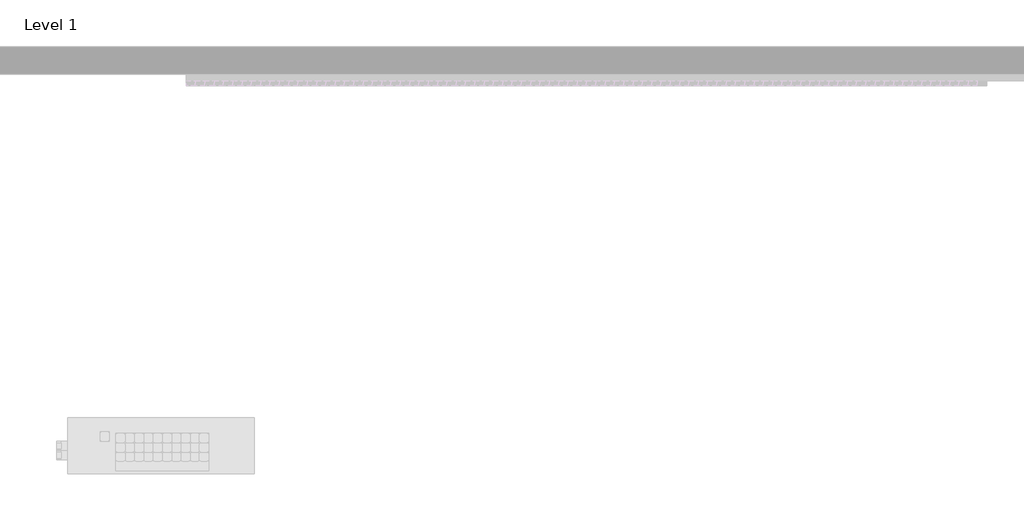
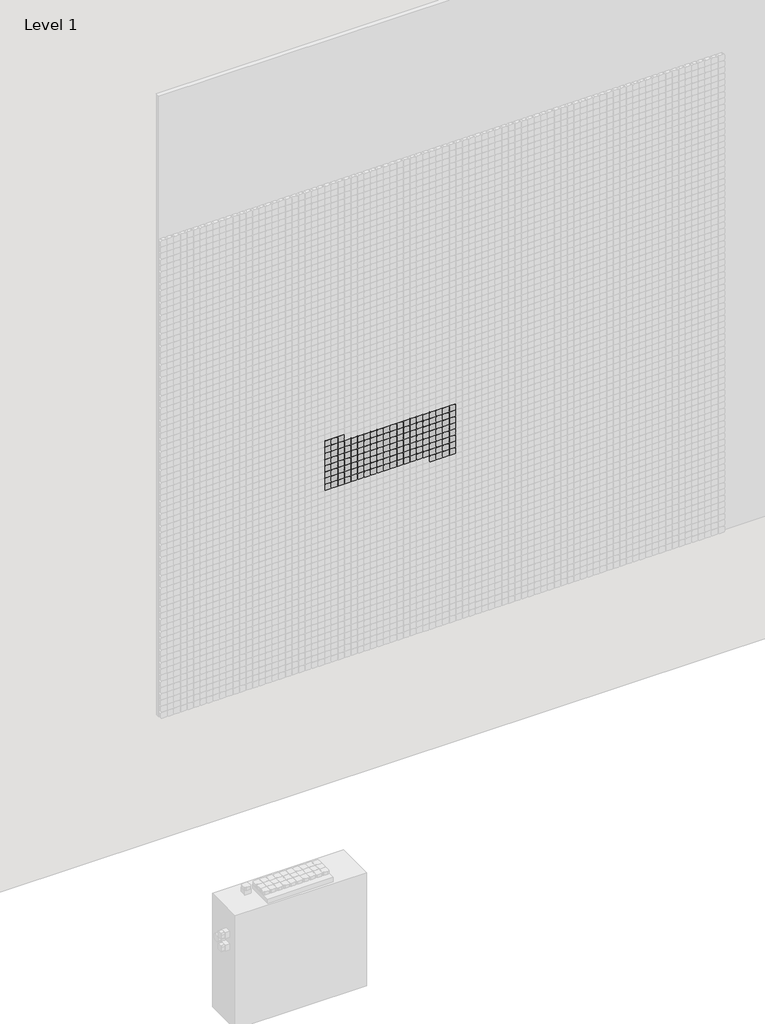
# One storey, part 30 of 71: 147 proxies.
"""IFC4 building model written with IfcOpenShell, lengths in millimetres."""

from ifc_helpers import new_model, si_unit, origin, place, context, project, spatial, transform, mapped, element, save
from components import generic_models_afde289c

model = new_model("IFC4")

# Units and contexts
model_context = context("Model", 3, world=origin())
ifc_project = project(units=[si_unit("LENGTHUNIT", "METRE", prefix="MILLI")], contexts=[model_context])

# Site, building, storey
site = spatial("IfcSite", under=ifc_project)
building = spatial("IfcBuilding", under=site)
storey = spatial("IfcBuildingStorey", under=building, Name="Level 1", Elevation=0.0)

# Proxies
placement = place(None, origin())
generic_models_shape = generic_models_afde289c(model_context)
element("IfcBuildingElementProxy", 1, Name="Pixel_M : Pixel_M", ObjectType="Pixel_M : Pixel_M", at=placement, inside=storey, context=model_context, shape_type="MappedRepresentation", body=[
    mapped(generic_models_shape, transform((6112.4280941, -75.0, 2766.3566215), x_axis=(1.0, 0.0, 0.0), y_axis=(0.0, 0.0, 1.0), z_axis=(0.0, -1.0, 0.0))),
])
element("IfcBuildingElementProxy", 2, Name="Pixel_M : Pixel_M", ObjectType="Pixel_M : Pixel_M", at=placement, inside=storey, context=model_context, shape_type="MappedRepresentation", body=[
    mapped(generic_models_shape, transform((6062.4280941, -75.0, 2766.3566215), x_axis=(1.0, 0.0, 0.0), y_axis=(0.0, 0.0, 1.0), z_axis=(0.0, -1.0, 0.0))),
])
element("IfcBuildingElementProxy", 3, Name="Pixel_M : Pixel_M", ObjectType="Pixel_M : Pixel_M", at=placement, inside=storey, context=model_context, shape_type="MappedRepresentation", body=[
    mapped(generic_models_shape, transform((6012.4280941, -75.0, 2766.3566215), x_axis=(1.0, 0.0, 0.0), y_axis=(0.0, 0.0, 1.0), z_axis=(0.0, -1.0, 0.0))),
])
element("IfcBuildingElementProxy", 4, Name="Pixel_M : Pixel_M", ObjectType="Pixel_M : Pixel_M", at=placement, inside=storey, context=model_context, shape_type="MappedRepresentation", body=[
    mapped(generic_models_shape, transform((6962.4280941, -75.0, 2716.3566215), x_axis=(1.0, 0.0, 0.0), y_axis=(0.0, 0.0, 1.0), z_axis=(0.0, -1.0, 0.0))),
])
element("IfcBuildingElementProxy", 5, Name="Pixel_M : Pixel_M", ObjectType="Pixel_M : Pixel_M", at=placement, inside=storey, context=model_context, shape_type="MappedRepresentation", body=[
    mapped(generic_models_shape, transform((6912.4280941, -75.0, 2716.3566215), x_axis=(1.0, 0.0, 0.0), y_axis=(0.0, 0.0, 1.0), z_axis=(0.0, -1.0, 0.0))),
])
element("IfcBuildingElementProxy", 6, Name="Pixel_M : Pixel_M", ObjectType="Pixel_M : Pixel_M", at=placement, inside=storey, context=model_context, shape_type="MappedRepresentation", body=[
    mapped(generic_models_shape, transform((6862.4280941, -75.0, 2716.3566215), x_axis=(1.0, 0.0, 0.0), y_axis=(0.0, 0.0, 1.0), z_axis=(0.0, -1.0, 0.0))),
])
element("IfcBuildingElementProxy", 7, Name="Pixel_M : Pixel_M", ObjectType="Pixel_M : Pixel_M", at=placement, inside=storey, context=model_context, shape_type="MappedRepresentation", body=[
    mapped(generic_models_shape, transform((6812.4280941, -75.0, 2716.3566215), x_axis=(1.0, 0.0, 0.0), y_axis=(0.0, 0.0, 1.0), z_axis=(0.0, -1.0, 0.0))),
])
element("IfcBuildingElementProxy", 8, Name="Pixel_M : Pixel_M", ObjectType="Pixel_M : Pixel_M", at=placement, inside=storey, context=model_context, shape_type="MappedRepresentation", body=[
    mapped(generic_models_shape, transform((6762.4280941, -75.0, 2716.3566215), x_axis=(1.0, 0.0, 0.0), y_axis=(0.0, 0.0, 1.0), z_axis=(0.0, -1.0, 0.0))),
])
element("IfcBuildingElementProxy", 9, Name="Pixel_M : Pixel_M", ObjectType="Pixel_M : Pixel_M", at=placement, inside=storey, context=model_context, shape_type="MappedRepresentation", body=[
    mapped(generic_models_shape, transform((6712.4280941, -75.0, 2716.3566215), x_axis=(1.0, 0.0, 0.0), y_axis=(0.0, 0.0, 1.0), z_axis=(0.0, -1.0, 0.0))),
])
element("IfcBuildingElementProxy", 10, Name="Pixel_M : Pixel_M", ObjectType="Pixel_M : Pixel_M", at=placement, inside=storey, context=model_context, shape_type="MappedRepresentation", body=[
    mapped(generic_models_shape, transform((6662.4280941, -75.0, 2716.3566215), x_axis=(1.0, 0.0, 0.0), y_axis=(0.0, 0.0, 1.0), z_axis=(0.0, -1.0, 0.0))),
])
element("IfcBuildingElementProxy", 11, Name="Pixel_M : Pixel_M", ObjectType="Pixel_M : Pixel_M", at=placement, inside=storey, context=model_context, shape_type="MappedRepresentation", body=[
    mapped(generic_models_shape, transform((6612.4280941, -75.0, 2716.3566215), x_axis=(1.0, 0.0, 0.0), y_axis=(0.0, 0.0, 1.0), z_axis=(0.0, -1.0, 0.0))),
])
element("IfcBuildingElementProxy", 12, Name="Pixel_M : Pixel_M", ObjectType="Pixel_M : Pixel_M", at=placement, inside=storey, context=model_context, shape_type="MappedRepresentation", body=[
    mapped(generic_models_shape, transform((6562.4280941, -75.0, 2716.3566215), x_axis=(1.0, 0.0, 0.0), y_axis=(0.0, 0.0, 1.0), z_axis=(0.0, -1.0, 0.0))),
])
element("IfcBuildingElementProxy", 13, Name="Pixel_M : Pixel_M", ObjectType="Pixel_M : Pixel_M", at=placement, inside=storey, context=model_context, shape_type="MappedRepresentation", body=[
    mapped(generic_models_shape, transform((6512.4280941, -75.0, 2716.3566215), x_axis=(1.0, 0.0, 0.0), y_axis=(0.0, 0.0, 1.0), z_axis=(0.0, -1.0, 0.0))),
])
element("IfcBuildingElementProxy", 14, Name="Pixel_M : Pixel_M", ObjectType="Pixel_M : Pixel_M", at=placement, inside=storey, context=model_context, shape_type="MappedRepresentation", body=[
    mapped(generic_models_shape, transform((6462.4280941, -75.0, 2716.3566215), x_axis=(1.0, 0.0, 0.0), y_axis=(0.0, 0.0, 1.0), z_axis=(0.0, -1.0, 0.0))),
])
element("IfcBuildingElementProxy", 15, Name="Pixel_M : Pixel_M", ObjectType="Pixel_M : Pixel_M", at=placement, inside=storey, context=model_context, shape_type="MappedRepresentation", body=[
    mapped(generic_models_shape, transform((6412.4280941, -75.0, 2716.3566215), x_axis=(1.0, 0.0, 0.0), y_axis=(0.0, 0.0, 1.0), z_axis=(0.0, -1.0, 0.0))),
])
element("IfcBuildingElementProxy", 16, Name="Pixel_M : Pixel_M", ObjectType="Pixel_M : Pixel_M", at=placement, inside=storey, context=model_context, shape_type="MappedRepresentation", body=[
    mapped(generic_models_shape, transform((6362.4280941, -75.0, 2716.3566215), x_axis=(1.0, 0.0, 0.0), y_axis=(0.0, 0.0, 1.0), z_axis=(0.0, -1.0, 0.0))),
])
element("IfcBuildingElementProxy", 17, Name="Pixel_M : Pixel_M", ObjectType="Pixel_M : Pixel_M", at=placement, inside=storey, context=model_context, shape_type="MappedRepresentation", body=[
    mapped(generic_models_shape, transform((6312.4280941, -75.0, 2716.3566215), x_axis=(1.0, 0.0, 0.0), y_axis=(0.0, 0.0, 1.0), z_axis=(0.0, -1.0, 0.0))),
])
element("IfcBuildingElementProxy", 18, Name="Pixel_M : Pixel_M", ObjectType="Pixel_M : Pixel_M", at=placement, inside=storey, context=model_context, shape_type="MappedRepresentation", body=[
    mapped(generic_models_shape, transform((6262.4280941, -75.0, 2716.3566215), x_axis=(1.0, 0.0, 0.0), y_axis=(0.0, 0.0, 1.0), z_axis=(0.0, -1.0, 0.0))),
])
element("IfcBuildingElementProxy", 19, Name="Pixel_M : Pixel_M", ObjectType="Pixel_M : Pixel_M", at=placement, inside=storey, context=model_context, shape_type="MappedRepresentation", body=[
    mapped(generic_models_shape, transform((6212.4280941, -75.0, 2716.3566215), x_axis=(1.0, 0.0, 0.0), y_axis=(0.0, 0.0, 1.0), z_axis=(0.0, -1.0, 0.0))),
])
element("IfcBuildingElementProxy", 20, Name="Pixel_M : Pixel_M", ObjectType="Pixel_M : Pixel_M", at=placement, inside=storey, context=model_context, shape_type="MappedRepresentation", body=[
    mapped(generic_models_shape, transform((6162.4280941, -75.0, 2716.3566215), x_axis=(1.0, 0.0, 0.0), y_axis=(0.0, 0.0, 1.0), z_axis=(0.0, -1.0, 0.0))),
])
element("IfcBuildingElementProxy", 21, Name="Pixel_M : Pixel_M", ObjectType="Pixel_M : Pixel_M", at=placement, inside=storey, context=model_context, shape_type="MappedRepresentation", body=[
    mapped(generic_models_shape, transform((6112.4280941, -75.0, 2716.3566215), x_axis=(1.0, 0.0, 0.0), y_axis=(0.0, 0.0, 1.0), z_axis=(0.0, -1.0, 0.0))),
])
element("IfcBuildingElementProxy", 22, Name="Pixel_M : Pixel_M", ObjectType="Pixel_M : Pixel_M", at=placement, inside=storey, context=model_context, shape_type="MappedRepresentation", body=[
    mapped(generic_models_shape, transform((6062.4280941, -75.0, 2716.3566215), x_axis=(1.0, 0.0, 0.0), y_axis=(0.0, 0.0, 1.0), z_axis=(0.0, -1.0, 0.0))),
])
element("IfcBuildingElementProxy", 23, Name="Pixel_M : Pixel_M", ObjectType="Pixel_M : Pixel_M", at=placement, inside=storey, context=model_context, shape_type="MappedRepresentation", body=[
    mapped(generic_models_shape, transform((6012.4280941, -75.0, 2716.3566215), x_axis=(1.0, 0.0, 0.0), y_axis=(0.0, 0.0, 1.0), z_axis=(0.0, -1.0, 0.0))),
])
element("IfcBuildingElementProxy", 24, Name="Pixel_M : Pixel_M", ObjectType="Pixel_M : Pixel_M", at=placement, inside=storey, context=model_context, shape_type="MappedRepresentation", body=[
    mapped(generic_models_shape, transform((6962.4280941, -75.0, 2666.3566215), x_axis=(1.0, 0.0, 0.0), y_axis=(0.0, 0.0, 1.0), z_axis=(0.0, -1.0, 0.0))),
])
element("IfcBuildingElementProxy", 25, Name="Pixel_M : Pixel_M", ObjectType="Pixel_M : Pixel_M", at=placement, inside=storey, context=model_context, shape_type="MappedRepresentation", body=[
    mapped(generic_models_shape, transform((6912.4280941, -75.0, 2666.3566215), x_axis=(1.0, 0.0, 0.0), y_axis=(0.0, 0.0, 1.0), z_axis=(0.0, -1.0, 0.0))),
])
element("IfcBuildingElementProxy", 26, Name="Pixel_M : Pixel_M", ObjectType="Pixel_M : Pixel_M", at=placement, inside=storey, context=model_context, shape_type="MappedRepresentation", body=[
    mapped(generic_models_shape, transform((6862.4280941, -75.0, 2666.3566215), x_axis=(1.0, 0.0, 0.0), y_axis=(0.0, 0.0, 1.0), z_axis=(0.0, -1.0, 0.0))),
])
element("IfcBuildingElementProxy", 27, Name="Pixel_M : Pixel_M", ObjectType="Pixel_M : Pixel_M", at=placement, inside=storey, context=model_context, shape_type="MappedRepresentation", body=[
    mapped(generic_models_shape, transform((6812.4280941, -75.0, 2666.3566215), x_axis=(1.0, 0.0, 0.0), y_axis=(0.0, 0.0, 1.0), z_axis=(0.0, -1.0, 0.0))),
])
element("IfcBuildingElementProxy", 28, Name="Pixel_M : Pixel_M", ObjectType="Pixel_M : Pixel_M", at=placement, inside=storey, context=model_context, shape_type="MappedRepresentation", body=[
    mapped(generic_models_shape, transform((6762.4280941, -75.0, 2666.3566215), x_axis=(1.0, 0.0, 0.0), y_axis=(0.0, 0.0, 1.0), z_axis=(0.0, -1.0, 0.0))),
])
element("IfcBuildingElementProxy", 29, Name="Pixel_M : Pixel_M", ObjectType="Pixel_M : Pixel_M", at=placement, inside=storey, context=model_context, shape_type="MappedRepresentation", body=[
    mapped(generic_models_shape, transform((6712.4280941, -75.0, 2666.3566215), x_axis=(1.0, 0.0, 0.0), y_axis=(0.0, 0.0, 1.0), z_axis=(0.0, -1.0, 0.0))),
])
element("IfcBuildingElementProxy", 30, Name="Pixel_M : Pixel_M", ObjectType="Pixel_M : Pixel_M", at=placement, inside=storey, context=model_context, shape_type="MappedRepresentation", body=[
    mapped(generic_models_shape, transform((6662.4280941, -75.0, 2666.3566215), x_axis=(1.0, 0.0, 0.0), y_axis=(0.0, 0.0, 1.0), z_axis=(0.0, -1.0, 0.0))),
])
element("IfcBuildingElementProxy", 31, Name="Pixel_M : Pixel_M", ObjectType="Pixel_M : Pixel_M", at=placement, inside=storey, context=model_context, shape_type="MappedRepresentation", body=[
    mapped(generic_models_shape, transform((6612.4280941, -75.0, 2666.3566215), x_axis=(1.0, 0.0, 0.0), y_axis=(0.0, 0.0, 1.0), z_axis=(0.0, -1.0, 0.0))),
])
element("IfcBuildingElementProxy", 32, Name="Pixel_M : Pixel_M", ObjectType="Pixel_M : Pixel_M", at=placement, inside=storey, context=model_context, shape_type="MappedRepresentation", body=[
    mapped(generic_models_shape, transform((6562.4280941, -75.0, 2666.3566215), x_axis=(1.0, 0.0, 0.0), y_axis=(0.0, 0.0, 1.0), z_axis=(0.0, -1.0, 0.0))),
])
element("IfcBuildingElementProxy", 33, Name="Pixel_M : Pixel_M", ObjectType="Pixel_M : Pixel_M", at=placement, inside=storey, context=model_context, shape_type="MappedRepresentation", body=[
    mapped(generic_models_shape, transform((6512.4280941, -75.0, 2666.3566215), x_axis=(1.0, 0.0, 0.0), y_axis=(0.0, 0.0, 1.0), z_axis=(0.0, -1.0, 0.0))),
])
element("IfcBuildingElementProxy", 34, Name="Pixel_M : Pixel_M", ObjectType="Pixel_M : Pixel_M", at=placement, inside=storey, context=model_context, shape_type="MappedRepresentation", body=[
    mapped(generic_models_shape, transform((6462.4280941, -75.0, 2666.3566215), x_axis=(1.0, 0.0, 0.0), y_axis=(0.0, 0.0, 1.0), z_axis=(0.0, -1.0, 0.0))),
])
element("IfcBuildingElementProxy", 35, Name="Pixel_M : Pixel_M", ObjectType="Pixel_M : Pixel_M", at=placement, inside=storey, context=model_context, shape_type="MappedRepresentation", body=[
    mapped(generic_models_shape, transform((6412.4280941, -75.0, 2666.3566215), x_axis=(1.0, 0.0, 0.0), y_axis=(0.0, 0.0, 1.0), z_axis=(0.0, -1.0, 0.0))),
])
element("IfcBuildingElementProxy", 36, Name="Pixel_M : Pixel_M", ObjectType="Pixel_M : Pixel_M", at=placement, inside=storey, context=model_context, shape_type="MappedRepresentation", body=[
    mapped(generic_models_shape, transform((6362.4280941, -75.0, 2666.3566215), x_axis=(1.0, 0.0, 0.0), y_axis=(0.0, 0.0, 1.0), z_axis=(0.0, -1.0, 0.0))),
])
element("IfcBuildingElementProxy", 37, Name="Pixel_M : Pixel_M", ObjectType="Pixel_M : Pixel_M", at=placement, inside=storey, context=model_context, shape_type="MappedRepresentation", body=[
    mapped(generic_models_shape, transform((6312.4280941, -75.0, 2666.3566215), x_axis=(1.0, 0.0, 0.0), y_axis=(0.0, 0.0, 1.0), z_axis=(0.0, -1.0, 0.0))),
])
element("IfcBuildingElementProxy", 38, Name="Pixel_M : Pixel_M", ObjectType="Pixel_M : Pixel_M", at=placement, inside=storey, context=model_context, shape_type="MappedRepresentation", body=[
    mapped(generic_models_shape, transform((6262.4280941, -75.0, 2666.3566215), x_axis=(1.0, 0.0, 0.0), y_axis=(0.0, 0.0, 1.0), z_axis=(0.0, -1.0, 0.0))),
])
element("IfcBuildingElementProxy", 39, Name="Pixel_M : Pixel_M", ObjectType="Pixel_M : Pixel_M", at=placement, inside=storey, context=model_context, shape_type="MappedRepresentation", body=[
    mapped(generic_models_shape, transform((6212.4280941, -75.0, 2666.3566215), x_axis=(1.0, 0.0, 0.0), y_axis=(0.0, 0.0, 1.0), z_axis=(0.0, -1.0, 0.0))),
])
element("IfcBuildingElementProxy", 40, Name="Pixel_M : Pixel_M", ObjectType="Pixel_M : Pixel_M", at=placement, inside=storey, context=model_context, shape_type="MappedRepresentation", body=[
    mapped(generic_models_shape, transform((6162.4280941, -75.0, 2666.3566215), x_axis=(1.0, 0.0, 0.0), y_axis=(0.0, 0.0, 1.0), z_axis=(0.0, -1.0, 0.0))),
])
element("IfcBuildingElementProxy", 41, Name="Pixel_M : Pixel_M", ObjectType="Pixel_M : Pixel_M", at=placement, inside=storey, context=model_context, shape_type="MappedRepresentation", body=[
    mapped(generic_models_shape, transform((6112.4280941, -75.0, 2666.3566215), x_axis=(1.0, 0.0, 0.0), y_axis=(0.0, 0.0, 1.0), z_axis=(0.0, -1.0, 0.0))),
])
element("IfcBuildingElementProxy", 42, Name="Pixel_M : Pixel_M", ObjectType="Pixel_M : Pixel_M", at=placement, inside=storey, context=model_context, shape_type="MappedRepresentation", body=[
    mapped(generic_models_shape, transform((6062.4280941, -75.0, 2666.3566215), x_axis=(1.0, 0.0, 0.0), y_axis=(0.0, 0.0, 1.0), z_axis=(0.0, -1.0, 0.0))),
])
element("IfcBuildingElementProxy", 43, Name="Pixel_M : Pixel_M", ObjectType="Pixel_M : Pixel_M", at=placement, inside=storey, context=model_context, shape_type="MappedRepresentation", body=[
    mapped(generic_models_shape, transform((6012.4280941, -75.0, 2666.3566215), x_axis=(1.0, 0.0, 0.0), y_axis=(0.0, 0.0, 1.0), z_axis=(0.0, -1.0, 0.0))),
])
element("IfcBuildingElementProxy", 44, Name="Pixel_M : Pixel_M", ObjectType="Pixel_M : Pixel_M", at=placement, inside=storey, context=model_context, shape_type="MappedRepresentation", body=[
    mapped(generic_models_shape, transform((6962.4280941, -75.0, 2616.3566215), x_axis=(1.0, 0.0, 0.0), y_axis=(0.0, 0.0, 1.0), z_axis=(0.0, -1.0, 0.0))),
])
element("IfcBuildingElementProxy", 45, Name="Pixel_M : Pixel_M", ObjectType="Pixel_M : Pixel_M", at=placement, inside=storey, context=model_context, shape_type="MappedRepresentation", body=[
    mapped(generic_models_shape, transform((6912.4280941, -75.0, 2616.3566215), x_axis=(1.0, 0.0, 0.0), y_axis=(0.0, 0.0, 1.0), z_axis=(0.0, -1.0, 0.0))),
])
element("IfcBuildingElementProxy", 46, Name="Pixel_M : Pixel_M", ObjectType="Pixel_M : Pixel_M", at=placement, inside=storey, context=model_context, shape_type="MappedRepresentation", body=[
    mapped(generic_models_shape, transform((6862.4280941, -75.0, 2616.3566215), x_axis=(1.0, 0.0, 0.0), y_axis=(0.0, 0.0, 1.0), z_axis=(0.0, -1.0, 0.0))),
])
element("IfcBuildingElementProxy", 47, Name="Pixel_M : Pixel_M", ObjectType="Pixel_M : Pixel_M", at=placement, inside=storey, context=model_context, shape_type="MappedRepresentation", body=[
    mapped(generic_models_shape, transform((6812.4280941, -75.0, 2616.3566215), x_axis=(1.0, 0.0, 0.0), y_axis=(0.0, 0.0, 1.0), z_axis=(0.0, -1.0, 0.0))),
])
element("IfcBuildingElementProxy", 48, Name="Pixel_M : Pixel_M", ObjectType="Pixel_M : Pixel_M", at=placement, inside=storey, context=model_context, shape_type="MappedRepresentation", body=[
    mapped(generic_models_shape, transform((6762.4280941, -75.0, 2616.3566215), x_axis=(1.0, 0.0, 0.0), y_axis=(0.0, 0.0, 1.0), z_axis=(0.0, -1.0, 0.0))),
])
element("IfcBuildingElementProxy", 49, Name="Pixel_M : Pixel_M", ObjectType="Pixel_M : Pixel_M", at=placement, inside=storey, context=model_context, shape_type="MappedRepresentation", body=[
    mapped(generic_models_shape, transform((6712.4280941, -75.0, 2616.3566215), x_axis=(1.0, 0.0, 0.0), y_axis=(0.0, 0.0, 1.0), z_axis=(0.0, -1.0, 0.0))),
])
element("IfcBuildingElementProxy", 50, Name="Pixel_M : Pixel_M", ObjectType="Pixel_M : Pixel_M", at=placement, inside=storey, context=model_context, shape_type="MappedRepresentation", body=[
    mapped(generic_models_shape, transform((6662.4280941, -75.0, 2616.3566215), x_axis=(1.0, 0.0, 0.0), y_axis=(0.0, 0.0, 1.0), z_axis=(0.0, -1.0, 0.0))),
])
element("IfcBuildingElementProxy", 51, Name="Pixel_M : Pixel_M", ObjectType="Pixel_M : Pixel_M", at=placement, inside=storey, context=model_context, shape_type="MappedRepresentation", body=[
    mapped(generic_models_shape, transform((6612.4280941, -75.0, 2616.3566215), x_axis=(1.0, 0.0, 0.0), y_axis=(0.0, 0.0, 1.0), z_axis=(0.0, -1.0, 0.0))),
])
element("IfcBuildingElementProxy", 52, Name="Pixel_M : Pixel_M", ObjectType="Pixel_M : Pixel_M", at=placement, inside=storey, context=model_context, shape_type="MappedRepresentation", body=[
    mapped(generic_models_shape, transform((6562.4280941, -75.0, 2616.3566215), x_axis=(1.0, 0.0, 0.0), y_axis=(0.0, 0.0, 1.0), z_axis=(0.0, -1.0, 0.0))),
])
element("IfcBuildingElementProxy", 53, Name="Pixel_M : Pixel_M", ObjectType="Pixel_M : Pixel_M", at=placement, inside=storey, context=model_context, shape_type="MappedRepresentation", body=[
    mapped(generic_models_shape, transform((6512.4280941, -75.0, 2616.3566215), x_axis=(1.0, 0.0, 0.0), y_axis=(0.0, 0.0, 1.0), z_axis=(0.0, -1.0, 0.0))),
])
element("IfcBuildingElementProxy", 54, Name="Pixel_M : Pixel_M", ObjectType="Pixel_M : Pixel_M", at=placement, inside=storey, context=model_context, shape_type="MappedRepresentation", body=[
    mapped(generic_models_shape, transform((6462.4280941, -75.0, 2616.3566215), x_axis=(1.0, 0.0, 0.0), y_axis=(0.0, 0.0, 1.0), z_axis=(0.0, -1.0, 0.0))),
])
element("IfcBuildingElementProxy", 55, Name="Pixel_M : Pixel_M", ObjectType="Pixel_M : Pixel_M", at=placement, inside=storey, context=model_context, shape_type="MappedRepresentation", body=[
    mapped(generic_models_shape, transform((6412.4280941, -75.0, 2616.3566215), x_axis=(1.0, 0.0, 0.0), y_axis=(0.0, 0.0, 1.0), z_axis=(0.0, -1.0, 0.0))),
])
element("IfcBuildingElementProxy", 56, Name="Pixel_M : Pixel_M", ObjectType="Pixel_M : Pixel_M", at=placement, inside=storey, context=model_context, shape_type="MappedRepresentation", body=[
    mapped(generic_models_shape, transform((6362.4280941, -75.0, 2616.3566215), x_axis=(1.0, 0.0, 0.0), y_axis=(0.0, 0.0, 1.0), z_axis=(0.0, -1.0, 0.0))),
])
element("IfcBuildingElementProxy", 57, Name="Pixel_M : Pixel_M", ObjectType="Pixel_M : Pixel_M", at=placement, inside=storey, context=model_context, shape_type="MappedRepresentation", body=[
    mapped(generic_models_shape, transform((6312.4280941, -75.0, 2616.3566215), x_axis=(1.0, 0.0, 0.0), y_axis=(0.0, 0.0, 1.0), z_axis=(0.0, -1.0, 0.0))),
])
element("IfcBuildingElementProxy", 58, Name="Pixel_M : Pixel_M", ObjectType="Pixel_M : Pixel_M", at=placement, inside=storey, context=model_context, shape_type="MappedRepresentation", body=[
    mapped(generic_models_shape, transform((6262.4280941, -75.0, 2616.3566215), x_axis=(1.0, 0.0, 0.0), y_axis=(0.0, 0.0, 1.0), z_axis=(0.0, -1.0, 0.0))),
])
element("IfcBuildingElementProxy", 59, Name="Pixel_M : Pixel_M", ObjectType="Pixel_M : Pixel_M", at=placement, inside=storey, context=model_context, shape_type="MappedRepresentation", body=[
    mapped(generic_models_shape, transform((6212.4280941, -75.0, 2616.3566215), x_axis=(1.0, 0.0, 0.0), y_axis=(0.0, 0.0, 1.0), z_axis=(0.0, -1.0, 0.0))),
])
element("IfcBuildingElementProxy", 60, Name="Pixel_M : Pixel_M", ObjectType="Pixel_M : Pixel_M", at=placement, inside=storey, context=model_context, shape_type="MappedRepresentation", body=[
    mapped(generic_models_shape, transform((6162.4280941, -75.0, 2616.3566215), x_axis=(1.0, 0.0, 0.0), y_axis=(0.0, 0.0, 1.0), z_axis=(0.0, -1.0, 0.0))),
])
element("IfcBuildingElementProxy", 61, Name="Pixel_M : Pixel_M", ObjectType="Pixel_M : Pixel_M", at=placement, inside=storey, context=model_context, shape_type="MappedRepresentation", body=[
    mapped(generic_models_shape, transform((6112.4280941, -75.0, 2616.3566215), x_axis=(1.0, 0.0, 0.0), y_axis=(0.0, 0.0, 1.0), z_axis=(0.0, -1.0, 0.0))),
])
element("IfcBuildingElementProxy", 62, Name="Pixel_M : Pixel_M", ObjectType="Pixel_M : Pixel_M", at=placement, inside=storey, context=model_context, shape_type="MappedRepresentation", body=[
    mapped(generic_models_shape, transform((6062.4280941, -75.0, 2616.3566215), x_axis=(1.0, 0.0, 0.0), y_axis=(0.0, 0.0, 1.0), z_axis=(0.0, -1.0, 0.0))),
])
element("IfcBuildingElementProxy", 63, Name="Pixel_M : Pixel_M", ObjectType="Pixel_M : Pixel_M", at=placement, inside=storey, context=model_context, shape_type="MappedRepresentation", body=[
    mapped(generic_models_shape, transform((6012.4280941, -75.0, 2616.3566215), x_axis=(1.0, 0.0, 0.0), y_axis=(0.0, 0.0, 1.0), z_axis=(0.0, -1.0, 0.0))),
])
element("IfcBuildingElementProxy", 64, Name="Pixel_M : Pixel_M", ObjectType="Pixel_M : Pixel_M", at=placement, inside=storey, context=model_context, shape_type="MappedRepresentation", body=[
    mapped(generic_models_shape, transform((6962.4280941, -75.0, 2566.3566215), x_axis=(1.0, 0.0, 0.0), y_axis=(0.0, 0.0, 1.0), z_axis=(0.0, -1.0, 0.0))),
])
element("IfcBuildingElementProxy", 65, Name="Pixel_M : Pixel_M", ObjectType="Pixel_M : Pixel_M", at=placement, inside=storey, context=model_context, shape_type="MappedRepresentation", body=[
    mapped(generic_models_shape, transform((6912.4280941, -75.0, 2566.3566215), x_axis=(1.0, 0.0, 0.0), y_axis=(0.0, 0.0, 1.0), z_axis=(0.0, -1.0, 0.0))),
])
element("IfcBuildingElementProxy", 66, Name="Pixel_M : Pixel_M", ObjectType="Pixel_M : Pixel_M", at=placement, inside=storey, context=model_context, shape_type="MappedRepresentation", body=[
    mapped(generic_models_shape, transform((6862.4280941, -75.0, 2566.3566215), x_axis=(1.0, 0.0, 0.0), y_axis=(0.0, 0.0, 1.0), z_axis=(0.0, -1.0, 0.0))),
])
element("IfcBuildingElementProxy", 67, Name="Pixel_M : Pixel_M", ObjectType="Pixel_M : Pixel_M", at=placement, inside=storey, context=model_context, shape_type="MappedRepresentation", body=[
    mapped(generic_models_shape, transform((6812.4280941, -75.0, 2566.3566215), x_axis=(1.0, 0.0, 0.0), y_axis=(0.0, 0.0, 1.0), z_axis=(0.0, -1.0, 0.0))),
])
element("IfcBuildingElementProxy", 68, Name="Pixel_M : Pixel_M", ObjectType="Pixel_M : Pixel_M", at=placement, inside=storey, context=model_context, shape_type="MappedRepresentation", body=[
    mapped(generic_models_shape, transform((6762.4280941, -75.0, 2566.3566215), x_axis=(1.0, 0.0, 0.0), y_axis=(0.0, 0.0, 1.0), z_axis=(0.0, -1.0, 0.0))),
])
element("IfcBuildingElementProxy", 69, Name="Pixel_M : Pixel_M", ObjectType="Pixel_M : Pixel_M", at=placement, inside=storey, context=model_context, shape_type="MappedRepresentation", body=[
    mapped(generic_models_shape, transform((6712.4280941, -75.0, 2566.3566215), x_axis=(1.0, 0.0, 0.0), y_axis=(0.0, 0.0, 1.0), z_axis=(0.0, -1.0, 0.0))),
])
element("IfcBuildingElementProxy", 70, Name="Pixel_M : Pixel_M", ObjectType="Pixel_M : Pixel_M", at=placement, inside=storey, context=model_context, shape_type="MappedRepresentation", body=[
    mapped(generic_models_shape, transform((6662.4280941, -75.0, 2566.3566215), x_axis=(1.0, 0.0, 0.0), y_axis=(0.0, 0.0, 1.0), z_axis=(0.0, -1.0, 0.0))),
])
element("IfcBuildingElementProxy", 71, Name="Pixel_M : Pixel_M", ObjectType="Pixel_M : Pixel_M", at=placement, inside=storey, context=model_context, shape_type="MappedRepresentation", body=[
    mapped(generic_models_shape, transform((6612.4280941, -75.0, 2566.3566215), x_axis=(1.0, 0.0, 0.0), y_axis=(0.0, 0.0, 1.0), z_axis=(0.0, -1.0, 0.0))),
])
element("IfcBuildingElementProxy", 72, Name="Pixel_M : Pixel_M", ObjectType="Pixel_M : Pixel_M", at=placement, inside=storey, context=model_context, shape_type="MappedRepresentation", body=[
    mapped(generic_models_shape, transform((6562.4280941, -75.0, 2566.3566215), x_axis=(1.0, 0.0, 0.0), y_axis=(0.0, 0.0, 1.0), z_axis=(0.0, -1.0, 0.0))),
])
element("IfcBuildingElementProxy", 73, Name="Pixel_M : Pixel_M", ObjectType="Pixel_M : Pixel_M", at=placement, inside=storey, context=model_context, shape_type="MappedRepresentation", body=[
    mapped(generic_models_shape, transform((6512.4280941, -75.0, 2566.3566215), x_axis=(1.0, 0.0, 0.0), y_axis=(0.0, 0.0, 1.0), z_axis=(0.0, -1.0, 0.0))),
])
element("IfcBuildingElementProxy", 74, Name="Pixel_M : Pixel_M", ObjectType="Pixel_M : Pixel_M", at=placement, inside=storey, context=model_context, shape_type="MappedRepresentation", body=[
    mapped(generic_models_shape, transform((6462.4280941, -75.0, 2566.3566215), x_axis=(1.0, 0.0, 0.0), y_axis=(0.0, 0.0, 1.0), z_axis=(0.0, -1.0, 0.0))),
])
element("IfcBuildingElementProxy", 75, Name="Pixel_M : Pixel_M", ObjectType="Pixel_M : Pixel_M", at=placement, inside=storey, context=model_context, shape_type="MappedRepresentation", body=[
    mapped(generic_models_shape, transform((6412.4280941, -75.0, 2566.3566215), x_axis=(1.0, 0.0, 0.0), y_axis=(0.0, 0.0, 1.0), z_axis=(0.0, -1.0, 0.0))),
])
element("IfcBuildingElementProxy", 76, Name="Pixel_M : Pixel_M", ObjectType="Pixel_M : Pixel_M", at=placement, inside=storey, context=model_context, shape_type="MappedRepresentation", body=[
    mapped(generic_models_shape, transform((6362.4280941, -75.0, 2566.3566215), x_axis=(1.0, 0.0, 0.0), y_axis=(0.0, 0.0, 1.0), z_axis=(0.0, -1.0, 0.0))),
])
element("IfcBuildingElementProxy", 77, Name="Pixel_M : Pixel_M", ObjectType="Pixel_M : Pixel_M", at=placement, inside=storey, context=model_context, shape_type="MappedRepresentation", body=[
    mapped(generic_models_shape, transform((6312.4280941, -75.0, 2566.3566215), x_axis=(1.0, 0.0, 0.0), y_axis=(0.0, 0.0, 1.0), z_axis=(0.0, -1.0, 0.0))),
])
element("IfcBuildingElementProxy", 78, Name="Pixel_M : Pixel_M", ObjectType="Pixel_M : Pixel_M", at=placement, inside=storey, context=model_context, shape_type="MappedRepresentation", body=[
    mapped(generic_models_shape, transform((6262.4280941, -75.0, 2566.3566215), x_axis=(1.0, 0.0, 0.0), y_axis=(0.0, 0.0, 1.0), z_axis=(0.0, -1.0, 0.0))),
])
element("IfcBuildingElementProxy", 79, Name="Pixel_M : Pixel_M", ObjectType="Pixel_M : Pixel_M", at=placement, inside=storey, context=model_context, shape_type="MappedRepresentation", body=[
    mapped(generic_models_shape, transform((6212.4280941, -75.0, 2566.3566215), x_axis=(1.0, 0.0, 0.0), y_axis=(0.0, 0.0, 1.0), z_axis=(0.0, -1.0, 0.0))),
])
element("IfcBuildingElementProxy", 80, Name="Pixel_M : Pixel_M", ObjectType="Pixel_M : Pixel_M", at=placement, inside=storey, context=model_context, shape_type="MappedRepresentation", body=[
    mapped(generic_models_shape, transform((6162.4280941, -75.0, 2566.3566215), x_axis=(1.0, 0.0, 0.0), y_axis=(0.0, 0.0, 1.0), z_axis=(0.0, -1.0, 0.0))),
])
element("IfcBuildingElementProxy", 81, Name="Pixel_M : Pixel_M", ObjectType="Pixel_M : Pixel_M", at=placement, inside=storey, context=model_context, shape_type="MappedRepresentation", body=[
    mapped(generic_models_shape, transform((6112.4280941, -75.0, 2566.3566215), x_axis=(1.0, 0.0, 0.0), y_axis=(0.0, 0.0, 1.0), z_axis=(0.0, -1.0, 0.0))),
])
element("IfcBuildingElementProxy", 82, Name="Pixel_M : Pixel_M", ObjectType="Pixel_M : Pixel_M", at=placement, inside=storey, context=model_context, shape_type="MappedRepresentation", body=[
    mapped(generic_models_shape, transform((6062.4280941, -75.0, 2566.3566215), x_axis=(1.0, 0.0, 0.0), y_axis=(0.0, 0.0, 1.0), z_axis=(0.0, -1.0, 0.0))),
])
element("IfcBuildingElementProxy", 83, Name="Pixel_M : Pixel_M", ObjectType="Pixel_M : Pixel_M", at=placement, inside=storey, context=model_context, shape_type="MappedRepresentation", body=[
    mapped(generic_models_shape, transform((6012.4280941, -75.0, 2566.3566215), x_axis=(1.0, 0.0, 0.0), y_axis=(0.0, 0.0, 1.0), z_axis=(0.0, -1.0, 0.0))),
])
element("IfcBuildingElementProxy", 84, Name="Pixel_M : Pixel_M", ObjectType="Pixel_M : Pixel_M", at=placement, inside=storey, context=model_context, shape_type="MappedRepresentation", body=[
    mapped(generic_models_shape, transform((6962.4280941, -75.0, 2516.3566215), x_axis=(1.0, 0.0, 0.0), y_axis=(0.0, 0.0, 1.0), z_axis=(0.0, -1.0, 0.0))),
])
element("IfcBuildingElementProxy", 85, Name="Pixel_M : Pixel_M", ObjectType="Pixel_M : Pixel_M", at=placement, inside=storey, context=model_context, shape_type="MappedRepresentation", body=[
    mapped(generic_models_shape, transform((6912.4280941, -75.0, 2516.3566215), x_axis=(1.0, 0.0, 0.0), y_axis=(0.0, 0.0, 1.0), z_axis=(0.0, -1.0, 0.0))),
])
element("IfcBuildingElementProxy", 86, Name="Pixel_M : Pixel_M", ObjectType="Pixel_M : Pixel_M", at=placement, inside=storey, context=model_context, shape_type="MappedRepresentation", body=[
    mapped(generic_models_shape, transform((6862.4280941, -75.0, 2516.3566215), x_axis=(1.0, 0.0, 0.0), y_axis=(0.0, 0.0, 1.0), z_axis=(0.0, -1.0, 0.0))),
])
element("IfcBuildingElementProxy", 87, Name="Pixel_M : Pixel_M", ObjectType="Pixel_M : Pixel_M", at=placement, inside=storey, context=model_context, shape_type="MappedRepresentation", body=[
    mapped(generic_models_shape, transform((6812.4280941, -75.0, 2516.3566215), x_axis=(1.0, 0.0, 0.0), y_axis=(0.0, 0.0, 1.0), z_axis=(0.0, -1.0, 0.0))),
])
element("IfcBuildingElementProxy", 88, Name="Pixel_M : Pixel_M", ObjectType="Pixel_M : Pixel_M", at=placement, inside=storey, context=model_context, shape_type="MappedRepresentation", body=[
    mapped(generic_models_shape, transform((6762.4280941, -75.0, 2516.3566215), x_axis=(1.0, 0.0, 0.0), y_axis=(0.0, 0.0, 1.0), z_axis=(0.0, -1.0, 0.0))),
])
element("IfcBuildingElementProxy", 89, Name="Pixel_M : Pixel_M", ObjectType="Pixel_M : Pixel_M", at=placement, inside=storey, context=model_context, shape_type="MappedRepresentation", body=[
    mapped(generic_models_shape, transform((6712.4280941, -75.0, 2516.3566215), x_axis=(1.0, 0.0, 0.0), y_axis=(0.0, 0.0, 1.0), z_axis=(0.0, -1.0, 0.0))),
])
element("IfcBuildingElementProxy", 90, Name="Pixel_M : Pixel_M", ObjectType="Pixel_M : Pixel_M", at=placement, inside=storey, context=model_context, shape_type="MappedRepresentation", body=[
    mapped(generic_models_shape, transform((6662.4280941, -75.0, 2516.3566215), x_axis=(1.0, 0.0, 0.0), y_axis=(0.0, 0.0, 1.0), z_axis=(0.0, -1.0, 0.0))),
])
element("IfcBuildingElementProxy", 91, Name="Pixel_M : Pixel_M", ObjectType="Pixel_M : Pixel_M", at=placement, inside=storey, context=model_context, shape_type="MappedRepresentation", body=[
    mapped(generic_models_shape, transform((6612.4280941, -75.0, 2516.3566215), x_axis=(1.0, 0.0, 0.0), y_axis=(0.0, 0.0, 1.0), z_axis=(0.0, -1.0, 0.0))),
])
element("IfcBuildingElementProxy", 92, Name="Pixel_M : Pixel_M", ObjectType="Pixel_M : Pixel_M", at=placement, inside=storey, context=model_context, shape_type="MappedRepresentation", body=[
    mapped(generic_models_shape, transform((6562.4280941, -75.0, 2516.3566215), x_axis=(1.0, 0.0, 0.0), y_axis=(0.0, 0.0, 1.0), z_axis=(0.0, -1.0, 0.0))),
])
element("IfcBuildingElementProxy", 93, Name="Pixel_M : Pixel_M", ObjectType="Pixel_M : Pixel_M", at=placement, inside=storey, context=model_context, shape_type="MappedRepresentation", body=[
    mapped(generic_models_shape, transform((6512.4280941, -75.0, 2516.3566215), x_axis=(1.0, 0.0, 0.0), y_axis=(0.0, 0.0, 1.0), z_axis=(0.0, -1.0, 0.0))),
])
element("IfcBuildingElementProxy", 94, Name="Pixel_M : Pixel_M", ObjectType="Pixel_M : Pixel_M", at=placement, inside=storey, context=model_context, shape_type="MappedRepresentation", body=[
    mapped(generic_models_shape, transform((6462.4280941, -75.0, 2516.3566215), x_axis=(1.0, 0.0, 0.0), y_axis=(0.0, 0.0, 1.0), z_axis=(0.0, -1.0, 0.0))),
])
element("IfcBuildingElementProxy", 95, Name="Pixel_M : Pixel_M", ObjectType="Pixel_M : Pixel_M", at=placement, inside=storey, context=model_context, shape_type="MappedRepresentation", body=[
    mapped(generic_models_shape, transform((6412.4280941, -75.0, 2516.3566215), x_axis=(1.0, 0.0, 0.0), y_axis=(0.0, 0.0, 1.0), z_axis=(0.0, -1.0, 0.0))),
])
element("IfcBuildingElementProxy", 96, Name="Pixel_M : Pixel_M", ObjectType="Pixel_M : Pixel_M", at=placement, inside=storey, context=model_context, shape_type="MappedRepresentation", body=[
    mapped(generic_models_shape, transform((6362.4280941, -75.0, 2516.3566215), x_axis=(1.0, 0.0, 0.0), y_axis=(0.0, 0.0, 1.0), z_axis=(0.0, -1.0, 0.0))),
])
element("IfcBuildingElementProxy", 97, Name="Pixel_M : Pixel_M", ObjectType="Pixel_M : Pixel_M", at=placement, inside=storey, context=model_context, shape_type="MappedRepresentation", body=[
    mapped(generic_models_shape, transform((6312.4280941, -75.0, 2516.3566215), x_axis=(1.0, 0.0, 0.0), y_axis=(0.0, 0.0, 1.0), z_axis=(0.0, -1.0, 0.0))),
])
element("IfcBuildingElementProxy", 98, Name="Pixel_M : Pixel_M", ObjectType="Pixel_M : Pixel_M", at=placement, inside=storey, context=model_context, shape_type="MappedRepresentation", body=[
    mapped(generic_models_shape, transform((6262.4280941, -75.0, 2516.3566215), x_axis=(1.0, 0.0, 0.0), y_axis=(0.0, 0.0, 1.0), z_axis=(0.0, -1.0, 0.0))),
])
element("IfcBuildingElementProxy", 99, Name="Pixel_M : Pixel_M", ObjectType="Pixel_M : Pixel_M", at=placement, inside=storey, context=model_context, shape_type="MappedRepresentation", body=[
    mapped(generic_models_shape, transform((6212.4280941, -75.0, 2516.3566215), x_axis=(1.0, 0.0, 0.0), y_axis=(0.0, 0.0, 1.0), z_axis=(0.0, -1.0, 0.0))),
])
element("IfcBuildingElementProxy", 100, Name="Pixel_M : Pixel_M", ObjectType="Pixel_M : Pixel_M", at=placement, inside=storey, context=model_context, shape_type="MappedRepresentation", body=[
    mapped(generic_models_shape, transform((6162.4280941, -75.0, 2516.3566215), x_axis=(1.0, 0.0, 0.0), y_axis=(0.0, 0.0, 1.0), z_axis=(0.0, -1.0, 0.0))),
])
element("IfcBuildingElementProxy", 101, Name="Pixel_M : Pixel_M", ObjectType="Pixel_M : Pixel_M", at=placement, inside=storey, context=model_context, shape_type="MappedRepresentation", body=[
    mapped(generic_models_shape, transform((6112.4280941, -75.0, 2516.3566215), x_axis=(1.0, 0.0, 0.0), y_axis=(0.0, 0.0, 1.0), z_axis=(0.0, -1.0, 0.0))),
])
element("IfcBuildingElementProxy", 102, Name="Pixel_M : Pixel_M", ObjectType="Pixel_M : Pixel_M", at=placement, inside=storey, context=model_context, shape_type="MappedRepresentation", body=[
    mapped(generic_models_shape, transform((6062.4280941, -75.0, 2516.3566215), x_axis=(1.0, 0.0, 0.0), y_axis=(0.0, 0.0, 1.0), z_axis=(0.0, -1.0, 0.0))),
])
element("IfcBuildingElementProxy", 103, Name="Pixel_M : Pixel_M", ObjectType="Pixel_M : Pixel_M", at=placement, inside=storey, context=model_context, shape_type="MappedRepresentation", body=[
    mapped(generic_models_shape, transform((6012.4280941, -75.0, 2516.3566215), x_axis=(1.0, 0.0, 0.0), y_axis=(0.0, 0.0, 1.0), z_axis=(0.0, -1.0, 0.0))),
])
element("IfcBuildingElementProxy", 104, Name="Pixel_M : Pixel_M", ObjectType="Pixel_M : Pixel_M", at=placement, inside=storey, context=model_context, shape_type="MappedRepresentation", body=[
    mapped(generic_models_shape, transform((6962.4280941, -75.0, 2466.3566215), x_axis=(1.0, 0.0, 0.0), y_axis=(0.0, 0.0, 1.0), z_axis=(0.0, -1.0, 0.0))),
])
element("IfcBuildingElementProxy", 105, Name="Pixel_M : Pixel_M", ObjectType="Pixel_M : Pixel_M", at=placement, inside=storey, context=model_context, shape_type="MappedRepresentation", body=[
    mapped(generic_models_shape, transform((6912.4280941, -75.0, 2466.3566215), x_axis=(1.0, 0.0, 0.0), y_axis=(0.0, 0.0, 1.0), z_axis=(0.0, -1.0, 0.0))),
])
element("IfcBuildingElementProxy", 106, Name="Pixel_M : Pixel_M", ObjectType="Pixel_M : Pixel_M", at=placement, inside=storey, context=model_context, shape_type="MappedRepresentation", body=[
    mapped(generic_models_shape, transform((6862.4280941, -75.0, 2466.3566215), x_axis=(1.0, 0.0, 0.0), y_axis=(0.0, 0.0, 1.0), z_axis=(0.0, -1.0, 0.0))),
])
element("IfcBuildingElementProxy", 107, Name="Pixel_M : Pixel_M", ObjectType="Pixel_M : Pixel_M", at=placement, inside=storey, context=model_context, shape_type="MappedRepresentation", body=[
    mapped(generic_models_shape, transform((6812.4280941, -75.0, 2466.3566215), x_axis=(1.0, 0.0, 0.0), y_axis=(0.0, 0.0, 1.0), z_axis=(0.0, -1.0, 0.0))),
])
element("IfcBuildingElementProxy", 108, Name="Pixel_M : Pixel_M", ObjectType="Pixel_M : Pixel_M", at=placement, inside=storey, context=model_context, shape_type="MappedRepresentation", body=[
    mapped(generic_models_shape, transform((6762.4280941, -75.0, 2466.3566215), x_axis=(1.0, 0.0, 0.0), y_axis=(0.0, 0.0, 1.0), z_axis=(0.0, -1.0, 0.0))),
])
element("IfcBuildingElementProxy", 109, Name="Pixel_M : Pixel_M", ObjectType="Pixel_M : Pixel_M", at=placement, inside=storey, context=model_context, shape_type="MappedRepresentation", body=[
    mapped(generic_models_shape, transform((6712.4280941, -75.0, 2466.3566215), x_axis=(1.0, 0.0, 0.0), y_axis=(0.0, 0.0, 1.0), z_axis=(0.0, -1.0, 0.0))),
])
element("IfcBuildingElementProxy", 110, Name="Pixel_M : Pixel_M", ObjectType="Pixel_M : Pixel_M", at=placement, inside=storey, context=model_context, shape_type="MappedRepresentation", body=[
    mapped(generic_models_shape, transform((6662.4280941, -75.0, 2466.3566215), x_axis=(1.0, 0.0, 0.0), y_axis=(0.0, 0.0, 1.0), z_axis=(0.0, -1.0, 0.0))),
])
element("IfcBuildingElementProxy", 111, Name="Pixel_M : Pixel_M", ObjectType="Pixel_M : Pixel_M", at=placement, inside=storey, context=model_context, shape_type="MappedRepresentation", body=[
    mapped(generic_models_shape, transform((6612.4280941, -75.0, 2466.3566215), x_axis=(1.0, 0.0, 0.0), y_axis=(0.0, 0.0, 1.0), z_axis=(0.0, -1.0, 0.0))),
])
element("IfcBuildingElementProxy", 112, Name="Pixel_M : Pixel_M", ObjectType="Pixel_M : Pixel_M", at=placement, inside=storey, context=model_context, shape_type="MappedRepresentation", body=[
    mapped(generic_models_shape, transform((6562.4280941, -75.0, 2466.3566215), x_axis=(1.0, 0.0, 0.0), y_axis=(0.0, 0.0, 1.0), z_axis=(0.0, -1.0, 0.0))),
])
element("IfcBuildingElementProxy", 113, Name="Pixel_M : Pixel_M", ObjectType="Pixel_M : Pixel_M", at=placement, inside=storey, context=model_context, shape_type="MappedRepresentation", body=[
    mapped(generic_models_shape, transform((6512.4280941, -75.0, 2466.3566215), x_axis=(1.0, 0.0, 0.0), y_axis=(0.0, 0.0, 1.0), z_axis=(0.0, -1.0, 0.0))),
])
element("IfcBuildingElementProxy", 114, Name="Pixel_M : Pixel_M", ObjectType="Pixel_M : Pixel_M", at=placement, inside=storey, context=model_context, shape_type="MappedRepresentation", body=[
    mapped(generic_models_shape, transform((6462.4280941, -75.0, 2466.3566215), x_axis=(1.0, 0.0, 0.0), y_axis=(0.0, 0.0, 1.0), z_axis=(0.0, -1.0, 0.0))),
])
element("IfcBuildingElementProxy", 115, Name="Pixel_M : Pixel_M", ObjectType="Pixel_M : Pixel_M", at=placement, inside=storey, context=model_context, shape_type="MappedRepresentation", body=[
    mapped(generic_models_shape, transform((6412.4280941, -75.0, 2466.3566215), x_axis=(1.0, 0.0, 0.0), y_axis=(0.0, 0.0, 1.0), z_axis=(0.0, -1.0, 0.0))),
])
element("IfcBuildingElementProxy", 116, Name="Pixel_M : Pixel_M", ObjectType="Pixel_M : Pixel_M", at=placement, inside=storey, context=model_context, shape_type="MappedRepresentation", body=[
    mapped(generic_models_shape, transform((6362.4280941, -75.0, 2466.3566215), x_axis=(1.0, 0.0, 0.0), y_axis=(0.0, 0.0, 1.0), z_axis=(0.0, -1.0, 0.0))),
])
element("IfcBuildingElementProxy", 117, Name="Pixel_M : Pixel_M", ObjectType="Pixel_M : Pixel_M", at=placement, inside=storey, context=model_context, shape_type="MappedRepresentation", body=[
    mapped(generic_models_shape, transform((6312.4280941, -75.0, 2466.3566215), x_axis=(1.0, 0.0, 0.0), y_axis=(0.0, 0.0, 1.0), z_axis=(0.0, -1.0, 0.0))),
])
element("IfcBuildingElementProxy", 118, Name="Pixel_M : Pixel_M", ObjectType="Pixel_M : Pixel_M", at=placement, inside=storey, context=model_context, shape_type="MappedRepresentation", body=[
    mapped(generic_models_shape, transform((6262.4280941, -75.0, 2466.3566215), x_axis=(1.0, 0.0, 0.0), y_axis=(0.0, 0.0, 1.0), z_axis=(0.0, -1.0, 0.0))),
])
element("IfcBuildingElementProxy", 119, Name="Pixel_M : Pixel_M", ObjectType="Pixel_M : Pixel_M", at=placement, inside=storey, context=model_context, shape_type="MappedRepresentation", body=[
    mapped(generic_models_shape, transform((6212.4280941, -75.0, 2466.3566215), x_axis=(1.0, 0.0, 0.0), y_axis=(0.0, 0.0, 1.0), z_axis=(0.0, -1.0, 0.0))),
])
element("IfcBuildingElementProxy", 120, Name="Pixel_M : Pixel_M", ObjectType="Pixel_M : Pixel_M", at=placement, inside=storey, context=model_context, shape_type="MappedRepresentation", body=[
    mapped(generic_models_shape, transform((6162.4280941, -75.0, 2466.3566215), x_axis=(1.0, 0.0, 0.0), y_axis=(0.0, 0.0, 1.0), z_axis=(0.0, -1.0, 0.0))),
])
element("IfcBuildingElementProxy", 121, Name="Pixel_M : Pixel_M", ObjectType="Pixel_M : Pixel_M", at=placement, inside=storey, context=model_context, shape_type="MappedRepresentation", body=[
    mapped(generic_models_shape, transform((6112.4280941, -75.0, 2466.3566215), x_axis=(1.0, 0.0, 0.0), y_axis=(0.0, 0.0, 1.0), z_axis=(0.0, -1.0, 0.0))),
])
element("IfcBuildingElementProxy", 122, Name="Pixel_M : Pixel_M", ObjectType="Pixel_M : Pixel_M", at=placement, inside=storey, context=model_context, shape_type="MappedRepresentation", body=[
    mapped(generic_models_shape, transform((6062.4280941, -75.0, 2466.3566215), x_axis=(1.0, 0.0, 0.0), y_axis=(0.0, 0.0, 1.0), z_axis=(0.0, -1.0, 0.0))),
])
element("IfcBuildingElementProxy", 123, Name="Pixel_M : Pixel_M", ObjectType="Pixel_M : Pixel_M", at=placement, inside=storey, context=model_context, shape_type="MappedRepresentation", body=[
    mapped(generic_models_shape, transform((6012.4280941, -75.0, 2466.3566215), x_axis=(1.0, 0.0, 0.0), y_axis=(0.0, 0.0, 1.0), z_axis=(0.0, -1.0, 0.0))),
])
element("IfcBuildingElementProxy", 124, Name="Pixel_M : Pixel_M", ObjectType="Pixel_M : Pixel_M", at=placement, inside=storey, context=model_context, shape_type="MappedRepresentation", body=[
    mapped(generic_models_shape, transform((6962.4280941, -75.0, 2416.3566215), x_axis=(1.0, 0.0, 0.0), y_axis=(0.0, 0.0, 1.0), z_axis=(0.0, -1.0, 0.0))),
])
element("IfcBuildingElementProxy", 125, Name="Pixel_M : Pixel_M", ObjectType="Pixel_M : Pixel_M", at=placement, inside=storey, context=model_context, shape_type="MappedRepresentation", body=[
    mapped(generic_models_shape, transform((6912.4280941, -75.0, 2416.3566215), x_axis=(1.0, 0.0, 0.0), y_axis=(0.0, 0.0, 1.0), z_axis=(0.0, -1.0, 0.0))),
])
element("IfcBuildingElementProxy", 126, Name="Pixel_M : Pixel_M", ObjectType="Pixel_M : Pixel_M", at=placement, inside=storey, context=model_context, shape_type="MappedRepresentation", body=[
    mapped(generic_models_shape, transform((6862.4280941, -75.0, 2416.3566215), x_axis=(1.0, 0.0, 0.0), y_axis=(0.0, 0.0, 1.0), z_axis=(0.0, -1.0, 0.0))),
])
element("IfcBuildingElementProxy", 127, Name="Pixel_M : Pixel_M", ObjectType="Pixel_M : Pixel_M", at=placement, inside=storey, context=model_context, shape_type="MappedRepresentation", body=[
    mapped(generic_models_shape, transform((6812.4280941, -75.0, 2416.3566215), x_axis=(1.0, 0.0, 0.0), y_axis=(0.0, 0.0, 1.0), z_axis=(0.0, -1.0, 0.0))),
])
element("IfcBuildingElementProxy", 128, Name="Pixel_M : Pixel_M", ObjectType="Pixel_M : Pixel_M", at=placement, inside=storey, context=model_context, shape_type="MappedRepresentation", body=[
    mapped(generic_models_shape, transform((6762.4280941, -75.0, 2416.3566215), x_axis=(1.0, 0.0, 0.0), y_axis=(0.0, 0.0, 1.0), z_axis=(0.0, -1.0, 0.0))),
])
element("IfcBuildingElementProxy", 129, Name="Pixel_M : Pixel_M", ObjectType="Pixel_M : Pixel_M", at=placement, inside=storey, context=model_context, shape_type="MappedRepresentation", body=[
    mapped(generic_models_shape, transform((6712.4280941, -75.0, 2416.3566215), x_axis=(1.0, 0.0, 0.0), y_axis=(0.0, 0.0, 1.0), z_axis=(0.0, -1.0, 0.0))),
])
element("IfcBuildingElementProxy", 130, Name="Pixel_M : Pixel_M", ObjectType="Pixel_M : Pixel_M", at=placement, inside=storey, context=model_context, shape_type="MappedRepresentation", body=[
    mapped(generic_models_shape, transform((6662.4280941, -75.0, 2416.3566215), x_axis=(1.0, 0.0, 0.0), y_axis=(0.0, 0.0, 1.0), z_axis=(0.0, -1.0, 0.0))),
])
element("IfcBuildingElementProxy", 131, Name="Pixel_M : Pixel_M", ObjectType="Pixel_M : Pixel_M", at=placement, inside=storey, context=model_context, shape_type="MappedRepresentation", body=[
    mapped(generic_models_shape, transform((6612.4280941, -75.0, 2416.3566215), x_axis=(1.0, 0.0, 0.0), y_axis=(0.0, 0.0, 1.0), z_axis=(0.0, -1.0, 0.0))),
])
element("IfcBuildingElementProxy", 132, Name="Pixel_M : Pixel_M", ObjectType="Pixel_M : Pixel_M", at=placement, inside=storey, context=model_context, shape_type="MappedRepresentation", body=[
    mapped(generic_models_shape, transform((6562.4280941, -75.0, 2416.3566215), x_axis=(1.0, 0.0, 0.0), y_axis=(0.0, 0.0, 1.0), z_axis=(0.0, -1.0, 0.0))),
])
element("IfcBuildingElementProxy", 133, Name="Pixel_M : Pixel_M", ObjectType="Pixel_M : Pixel_M", at=placement, inside=storey, context=model_context, shape_type="MappedRepresentation", body=[
    mapped(generic_models_shape, transform((6512.4280941, -75.0, 2416.3566215), x_axis=(1.0, 0.0, 0.0), y_axis=(0.0, 0.0, 1.0), z_axis=(0.0, -1.0, 0.0))),
])
element("IfcBuildingElementProxy", 134, Name="Pixel_M : Pixel_M", ObjectType="Pixel_M : Pixel_M", at=placement, inside=storey, context=model_context, shape_type="MappedRepresentation", body=[
    mapped(generic_models_shape, transform((6462.4280941, -75.0, 2416.3566215), x_axis=(1.0, 0.0, 0.0), y_axis=(0.0, 0.0, 1.0), z_axis=(0.0, -1.0, 0.0))),
])
element("IfcBuildingElementProxy", 135, Name="Pixel_M : Pixel_M", ObjectType="Pixel_M : Pixel_M", at=placement, inside=storey, context=model_context, shape_type="MappedRepresentation", body=[
    mapped(generic_models_shape, transform((6412.4280941, -75.0, 2416.3566215), x_axis=(1.0, 0.0, 0.0), y_axis=(0.0, 0.0, 1.0), z_axis=(0.0, -1.0, 0.0))),
])
element("IfcBuildingElementProxy", 136, Name="Pixel_M : Pixel_M", ObjectType="Pixel_M : Pixel_M", at=placement, inside=storey, context=model_context, shape_type="MappedRepresentation", body=[
    mapped(generic_models_shape, transform((6362.4280941, -75.0, 2416.3566215), x_axis=(1.0, 0.0, 0.0), y_axis=(0.0, 0.0, 1.0), z_axis=(0.0, -1.0, 0.0))),
])
element("IfcBuildingElementProxy", 137, Name="Pixel_M : Pixel_M", ObjectType="Pixel_M : Pixel_M", at=placement, inside=storey, context=model_context, shape_type="MappedRepresentation", body=[
    mapped(generic_models_shape, transform((6312.4280941, -75.0, 2416.3566215), x_axis=(1.0, 0.0, 0.0), y_axis=(0.0, 0.0, 1.0), z_axis=(0.0, -1.0, 0.0))),
])
element("IfcBuildingElementProxy", 138, Name="Pixel_M : Pixel_M", ObjectType="Pixel_M : Pixel_M", at=placement, inside=storey, context=model_context, shape_type="MappedRepresentation", body=[
    mapped(generic_models_shape, transform((6262.4280941, -75.0, 2416.3566215), x_axis=(1.0, 0.0, 0.0), y_axis=(0.0, 0.0, 1.0), z_axis=(0.0, -1.0, 0.0))),
])
element("IfcBuildingElementProxy", 139, Name="Pixel_M : Pixel_M", ObjectType="Pixel_M : Pixel_M", at=placement, inside=storey, context=model_context, shape_type="MappedRepresentation", body=[
    mapped(generic_models_shape, transform((6212.4280941, -75.0, 2416.3566215), x_axis=(1.0, 0.0, 0.0), y_axis=(0.0, 0.0, 1.0), z_axis=(0.0, -1.0, 0.0))),
])
element("IfcBuildingElementProxy", 140, Name="Pixel_M : Pixel_M", ObjectType="Pixel_M : Pixel_M", at=placement, inside=storey, context=model_context, shape_type="MappedRepresentation", body=[
    mapped(generic_models_shape, transform((6162.4280941, -75.0, 2416.3566215), x_axis=(1.0, 0.0, 0.0), y_axis=(0.0, 0.0, 1.0), z_axis=(0.0, -1.0, 0.0))),
])
element("IfcBuildingElementProxy", 141, Name="Pixel_M : Pixel_M", ObjectType="Pixel_M : Pixel_M", at=placement, inside=storey, context=model_context, shape_type="MappedRepresentation", body=[
    mapped(generic_models_shape, transform((6112.4280941, -75.0, 2416.3566215), x_axis=(1.0, 0.0, 0.0), y_axis=(0.0, 0.0, 1.0), z_axis=(0.0, -1.0, 0.0))),
])
element("IfcBuildingElementProxy", 142, Name="Pixel_M : Pixel_M", ObjectType="Pixel_M : Pixel_M", at=placement, inside=storey, context=model_context, shape_type="MappedRepresentation", body=[
    mapped(generic_models_shape, transform((6062.4280941, -75.0, 2416.3566215), x_axis=(1.0, 0.0, 0.0), y_axis=(0.0, 0.0, 1.0), z_axis=(0.0, -1.0, 0.0))),
])
element("IfcBuildingElementProxy", 143, Name="Pixel_M : Pixel_M", ObjectType="Pixel_M : Pixel_M", at=placement, inside=storey, context=model_context, shape_type="MappedRepresentation", body=[
    mapped(generic_models_shape, transform((6012.4280941, -75.0, 2416.3566215), x_axis=(1.0, 0.0, 0.0), y_axis=(0.0, 0.0, 1.0), z_axis=(0.0, -1.0, 0.0))),
])
element("IfcBuildingElementProxy", 144, Name="Pixel_M : Pixel_M", ObjectType="Pixel_M : Pixel_M", at=placement, inside=storey, context=model_context, shape_type="MappedRepresentation", body=[
    mapped(generic_models_shape, transform((6962.4280941, -75.0, 2366.3566215), x_axis=(1.0, 0.0, 0.0), y_axis=(0.0, 0.0, 1.0), z_axis=(0.0, -1.0, 0.0))),
])
element("IfcBuildingElementProxy", 145, Name="Pixel_M : Pixel_M", ObjectType="Pixel_M : Pixel_M", at=placement, inside=storey, context=model_context, shape_type="MappedRepresentation", body=[
    mapped(generic_models_shape, transform((6912.4280941, -75.0, 2366.3566215), x_axis=(1.0, 0.0, 0.0), y_axis=(0.0, 0.0, 1.0), z_axis=(0.0, -1.0, 0.0))),
])
element("IfcBuildingElementProxy", 146, Name="Pixel_M : Pixel_M", ObjectType="Pixel_M : Pixel_M", at=placement, inside=storey, context=model_context, shape_type="MappedRepresentation", body=[
    mapped(generic_models_shape, transform((6862.4280941, -75.0, 2366.3566215), x_axis=(1.0, 0.0, 0.0), y_axis=(0.0, 0.0, 1.0), z_axis=(0.0, -1.0, 0.0))),
])
element("IfcBuildingElementProxy", 147, Name="Pixel_M : Pixel_M", ObjectType="Pixel_M : Pixel_M", at=placement, inside=storey, context=model_context, shape_type="MappedRepresentation", body=[
    mapped(generic_models_shape, transform((6812.4280941, -75.0, 2366.3566215), x_axis=(1.0, 0.0, 0.0), y_axis=(0.0, 0.0, 1.0), z_axis=(0.0, -1.0, 0.0))),
])

save(model, "model.ifc")
